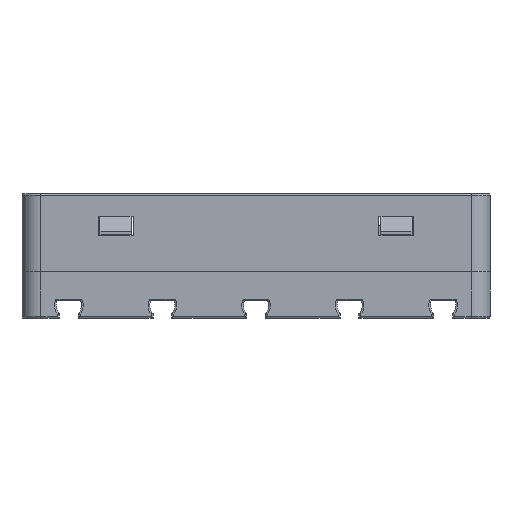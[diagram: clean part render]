
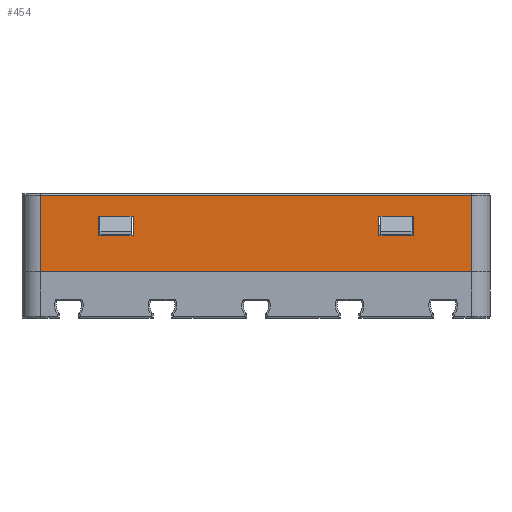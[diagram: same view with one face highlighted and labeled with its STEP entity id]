
A CAD part, left-side view. The second image highlights one B-rep face of the part: STEP entity #454.
In plain terms, the highlighted planar face has unit normal (-1, 0, 0).
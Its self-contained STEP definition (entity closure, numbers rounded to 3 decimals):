
#191=FACE_BOUND('',#1139,.T.);
#192=FACE_BOUND('',#1140,.T.);
#193=FACE_BOUND('',#1141,.T.);
#454=ADVANCED_FACE('',(#191,#192,#193),#731,.T.);
#731=PLANE('',#4988);
#1139=EDGE_LOOP('',(#1520,#1521,#1522,#1523));
#1140=EDGE_LOOP('',(#1524,#1525,#1526,#1527));
#1141=EDGE_LOOP('',(#1528,#1529,#1530,#1531));
#1520=ORIENTED_EDGE('',*,*,#3368,.F.);
#1521=ORIENTED_EDGE('',*,*,#3369,.F.);
#1522=ORIENTED_EDGE('',*,*,#3370,.F.);
#1523=ORIENTED_EDGE('',*,*,#3371,.F.);
#1524=ORIENTED_EDGE('',*,*,#3372,.T.);
#1525=ORIENTED_EDGE('',*,*,#3373,.T.);
#1526=ORIENTED_EDGE('',*,*,#3374,.T.);
#1527=ORIENTED_EDGE('',*,*,#3305,.F.);
#1528=ORIENTED_EDGE('',*,*,#3375,.T.);
#1529=ORIENTED_EDGE('',*,*,#3376,.T.);
#1530=ORIENTED_EDGE('',*,*,#3377,.T.);
#1531=ORIENTED_EDGE('',*,*,#3378,.T.);
#2855=VERTEX_POINT('',#6787);
#2856=VERTEX_POINT('',#6789);
#2916=VERTEX_POINT('',#6923);
#2917=VERTEX_POINT('',#6924);
#2918=VERTEX_POINT('',#6926);
#2919=VERTEX_POINT('',#6928);
#2920=VERTEX_POINT('',#6931);
#2921=VERTEX_POINT('',#6933);
#2922=VERTEX_POINT('',#6936);
#2923=VERTEX_POINT('',#6937);
#2924=VERTEX_POINT('',#6939);
#2925=VERTEX_POINT('',#6941);
#3305=EDGE_CURVE('',#2855,#2856,#4006,.T.);
#3368=EDGE_CURVE('',#2916,#2917,#4053,.T.);
#3369=EDGE_CURVE('',#2918,#2916,#4054,.T.);
#3370=EDGE_CURVE('',#2919,#2918,#4055,.T.);
#3371=EDGE_CURVE('',#2917,#2919,#4056,.T.);
#3372=EDGE_CURVE('',#2855,#2920,#4057,.T.);
#3373=EDGE_CURVE('',#2920,#2921,#4058,.T.);
#3374=EDGE_CURVE('',#2921,#2856,#4059,.T.);
#3375=EDGE_CURVE('',#2922,#2923,#4060,.T.);
#3376=EDGE_CURVE('',#2923,#2924,#4061,.T.);
#3377=EDGE_CURVE('',#2924,#2925,#4062,.T.);
#3378=EDGE_CURVE('',#2925,#2922,#4063,.T.);
#4006=LINE('',#6788,#4490);
#4053=LINE('',#6922,#4537);
#4054=LINE('',#6925,#4538);
#4055=LINE('',#6927,#4539);
#4056=LINE('',#6929,#4540);
#4057=LINE('',#6930,#4541);
#4058=LINE('',#6932,#4542);
#4059=LINE('',#6934,#4543);
#4060=LINE('',#6935,#4544);
#4061=LINE('',#6938,#4545);
#4062=LINE('',#6940,#4546);
#4063=LINE('',#6942,#4547);
#4490=VECTOR('',#5421,1.);
#4537=VECTOR('',#5506,1.);
#4538=VECTOR('',#5507,1.);
#4539=VECTOR('',#5508,1.);
#4540=VECTOR('',#5509,1.);
#4541=VECTOR('',#5510,1.);
#4542=VECTOR('',#5511,1.);
#4543=VECTOR('',#5512,1.);
#4544=VECTOR('',#5513,1.);
#4545=VECTOR('',#5514,1.);
#4546=VECTOR('',#5515,1.);
#4547=VECTOR('',#5516,1.);
#4988=AXIS2_PLACEMENT_3D('',#6943,#5517,#5518);
#5421=DIRECTION('',(0.,1.,0.));
#5506=DIRECTION('',(0.,0.,-1.));
#5507=DIRECTION('',(0.,1.,0.));
#5508=DIRECTION('',(0.,0.,1.));
#5509=DIRECTION('',(0.,-1.,0.));
#5510=DIRECTION('',(0.,0.,1.));
#5511=DIRECTION('',(0.,1.,0.));
#5512=DIRECTION('',(0.,0.,-1.));
#5513=DIRECTION('',(0.,-1.,0.));
#5514=DIRECTION('',(0.,0.,-1.));
#5515=DIRECTION('',(0.,1.,0.));
#5516=DIRECTION('',(0.,0.,1.));
#5517=DIRECTION('',(-1.,0.,0.));
#5518=DIRECTION('',(0.,-1.,0.));
#6787=CARTESIAN_POINT('',(-30.,-32.96,-7.24));
#6788=CARTESIAN_POINT('',(-30.,39.04,-7.24));
#6789=CARTESIAN_POINT('',(-30.,36.04,-7.24));
#6922=CARTESIAN_POINT('',(-30.,-18.16,1.66));
#6923=CARTESIAN_POINT('',(-30.,-18.16,1.66));
#6924=CARTESIAN_POINT('',(-30.,-18.16,-1.49));
#6925=CARTESIAN_POINT('',(-30.,-23.76,1.66));
#6926=CARTESIAN_POINT('',(-30.,-23.76,1.66));
#6927=CARTESIAN_POINT('',(-30.,-23.76,-1.49));
#6928=CARTESIAN_POINT('',(-30.,-23.76,-1.49));
#6929=CARTESIAN_POINT('',(-30.,-18.16,-1.49));
#6930=CARTESIAN_POINT('',(-30.,-32.96,-14.74));
#6931=CARTESIAN_POINT('',(-30.,-32.96,4.96));
#6932=CARTESIAN_POINT('',(-30.,39.04,4.96));
#6933=CARTESIAN_POINT('',(-30.,36.04,4.96));
#6934=CARTESIAN_POINT('',(-30.,36.04,-14.74));
#6935=CARTESIAN_POINT('',(-30.,26.84,1.66));
#6936=CARTESIAN_POINT('',(-30.,26.84,1.66));
#6937=CARTESIAN_POINT('',(-30.,21.24,1.66));
#6938=CARTESIAN_POINT('',(-30.,21.24,1.66));
#6939=CARTESIAN_POINT('',(-30.,21.24,-1.49));
#6940=CARTESIAN_POINT('',(-30.,21.24,-1.49));
#6941=CARTESIAN_POINT('',(-30.,26.84,-1.49));
#6942=CARTESIAN_POINT('',(-30.,26.84,-1.49));
#6943=CARTESIAN_POINT('',(-30.,39.04,-14.74));
